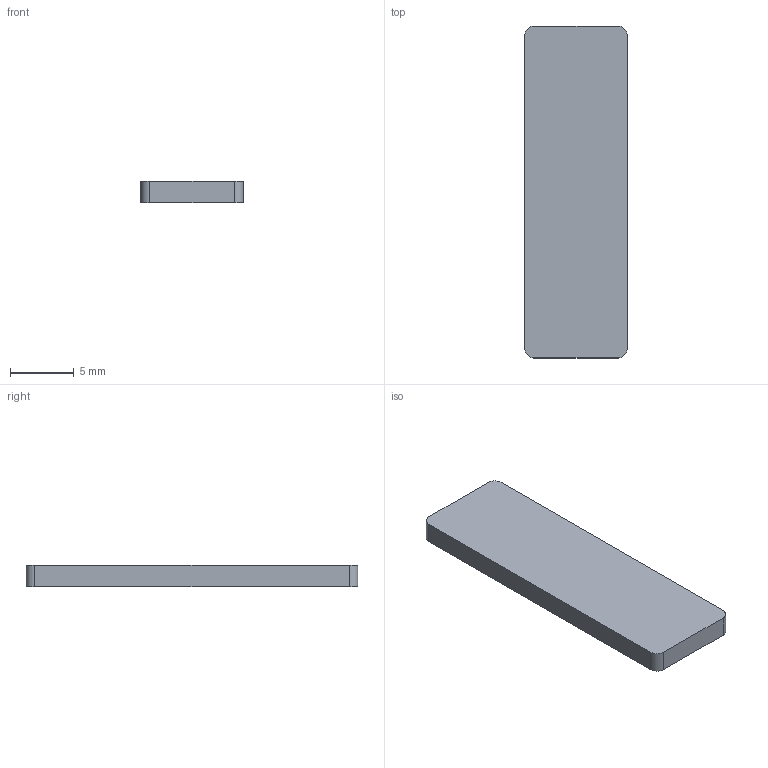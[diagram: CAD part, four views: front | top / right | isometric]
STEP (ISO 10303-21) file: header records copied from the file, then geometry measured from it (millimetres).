
FILE_DESCRIPTION(/* description */ (''),/* implementation_level */ '2;1');
FILE_NAME(/* name */ 'C27_R2_Battery_Front_Pad_1.step',/* time_stamp */ '2026-09-10T17:48:55-07:00',/* author */ (''),/* organization */ (''),/* preprocessor_version */ 'ST-DEVELOPER v20.1',/* originating_system */ 'Autodesk Translation Framework v15.8.0.0',/* authorisation */ '');
FILE_SCHEMA (('AUTOMOTIVE_DESIGN { 1 0 10303 214 3 1 1 }'));
Length unit declared in the file: millimetre
Products named in the file (1): 2026-09-10-17-48-55-107
Bounding box: 8 x 26 x 1.66 mm (x, y, z)
Volume: 344.6 mm3; surface area: 526 mm2
Topology: 1 solids, 1 shells, 10 faces, 24 edges, 16 vertices
Faces by surface type: plane 6, cylinder 4
Entity records: 329 total; most frequent: DIRECTION 54, CARTESIAN_POINT 51, ORIENTED_EDGE 48, EDGE_CURVE 24, AXIS2_PLACEMENT_3D 19, LINE 16, VECTOR 16, VERTEX_POINT 16
